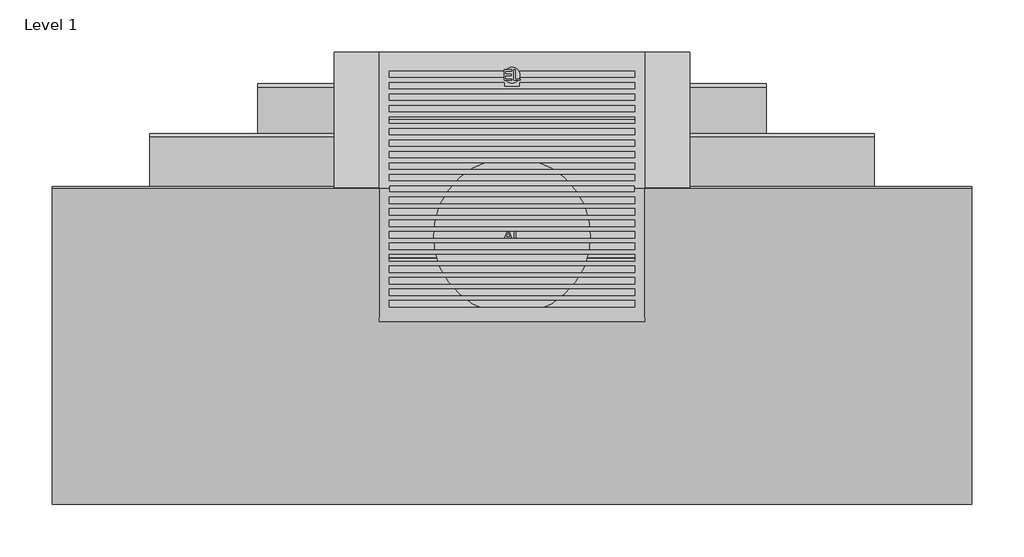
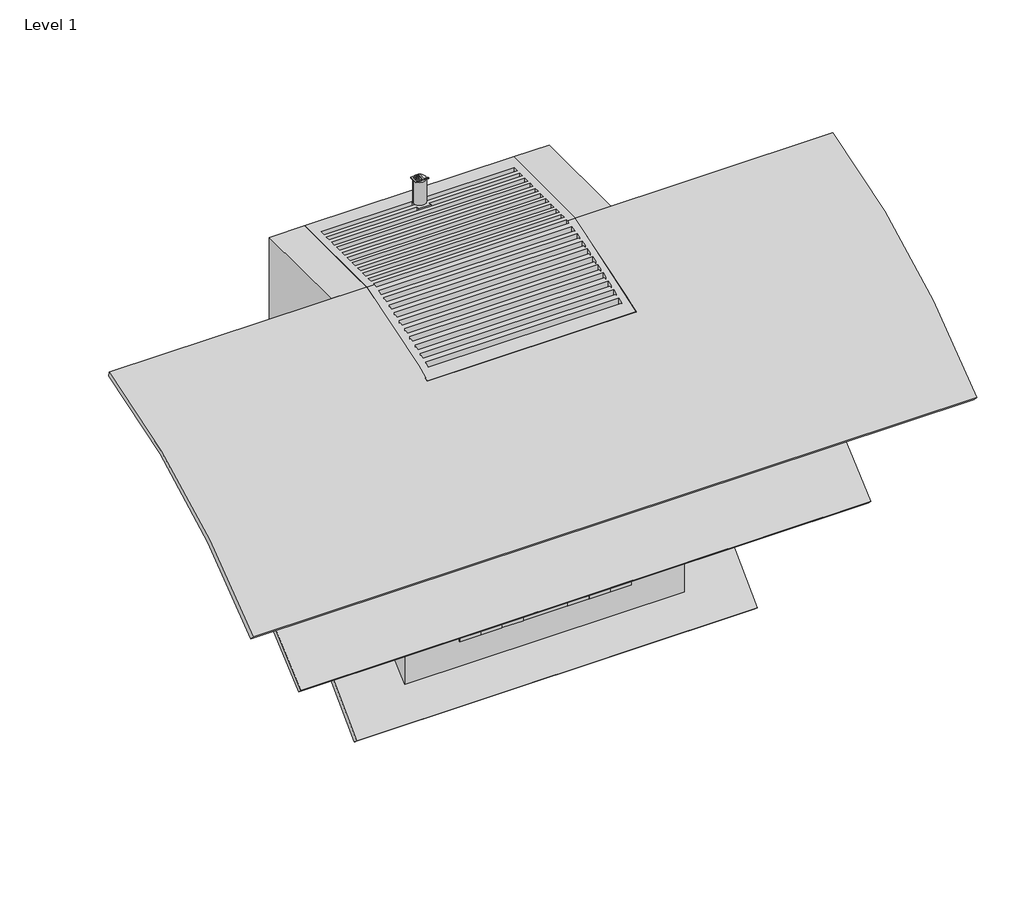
# One storey: 1 proxy.
"""IFC4 building model written with IfcOpenShell, lengths in millimetres."""

from ifc_helpers import new_model, si_unit, origin, place, context, project, spatial, transform, mapped, element, save
from components import specialty_equipment_96c89e36, specialty_equipment_e779ac50

model = new_model("IFC4")

# Units and contexts
model_context = context("Model", 3, world=origin())
ifc_project = project(units=[si_unit("LENGTHUNIT", "METRE", prefix="MILLI")], contexts=[model_context])

# Site, building, storey
site = spatial("IfcSite", under=ifc_project)
building = spatial("IfcBuilding", under=site)
storey = spatial("IfcBuildingStorey", under=building, Name="Level 1", Elevation=0.0)

# Proxy
placement = place(None, origin())
specialty_equipment_shape = specialty_equipment_96c89e36(model_context)
specialty_equipment_2_shape = specialty_equipment_e779ac50(model_context)
element("IfcBuildingElementProxy", 1, Name="10837590_RU_DA7198W_GRGR : 28719860_RU_10837590_DA7198W_GRGR", ObjectType="10837590_RU_DA7198W_GRGR : 28719860_RU_10837590_DA7198W_GRGR", at=placement, inside=storey, context=model_context, shape_type="MappedRepresentation", body=[
    mapped(specialty_equipment_shape, transform((0.0, 0.0, 0.0), x_axis=(1.0, 0.0, 0.0), y_axis=(0.0, 1.0, 0.0), z_axis=(0.0, 0.0, 1.0))),
    mapped(specialty_equipment_2_shape, transform((0.0, 0.0, 0.0), x_axis=(1.0, 0.0, 0.0), y_axis=(0.0, 1.0, 0.0), z_axis=(0.0, 0.0, 1.0))),
])

save(model, "model.ifc")
